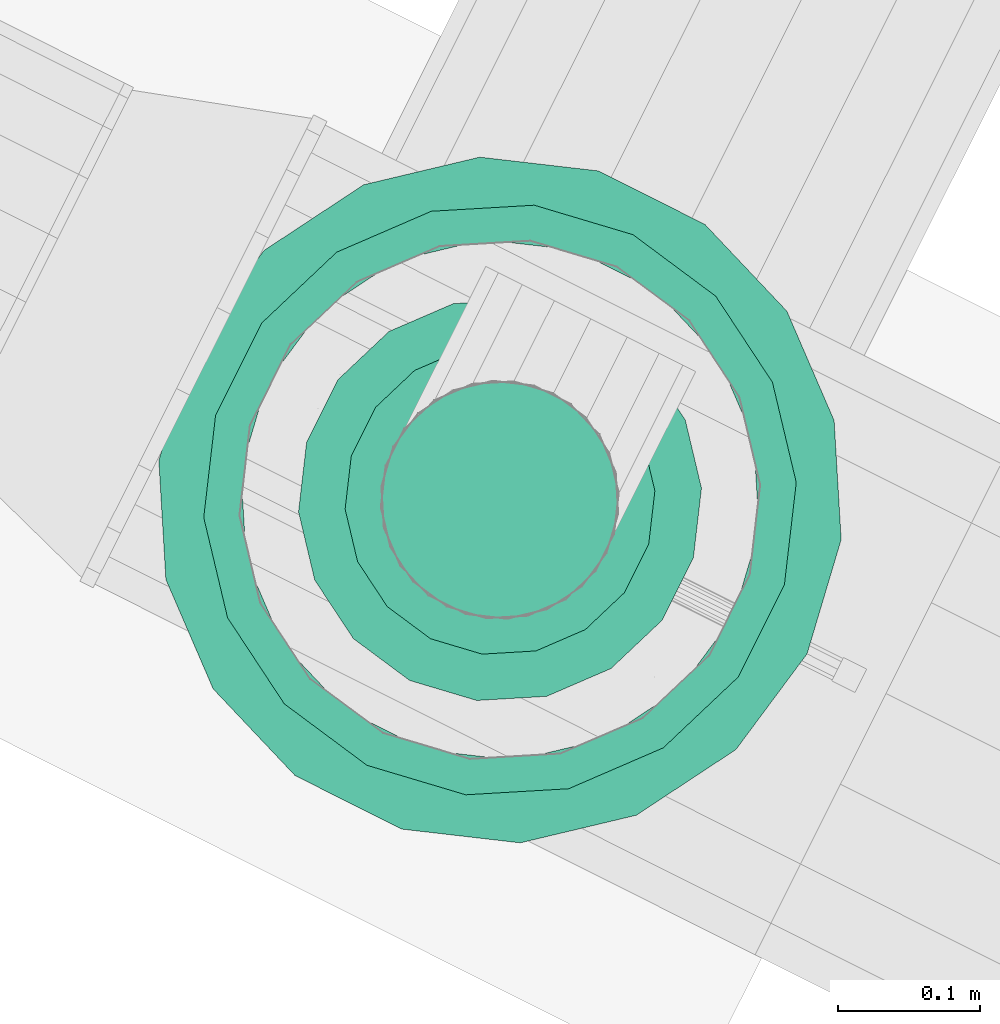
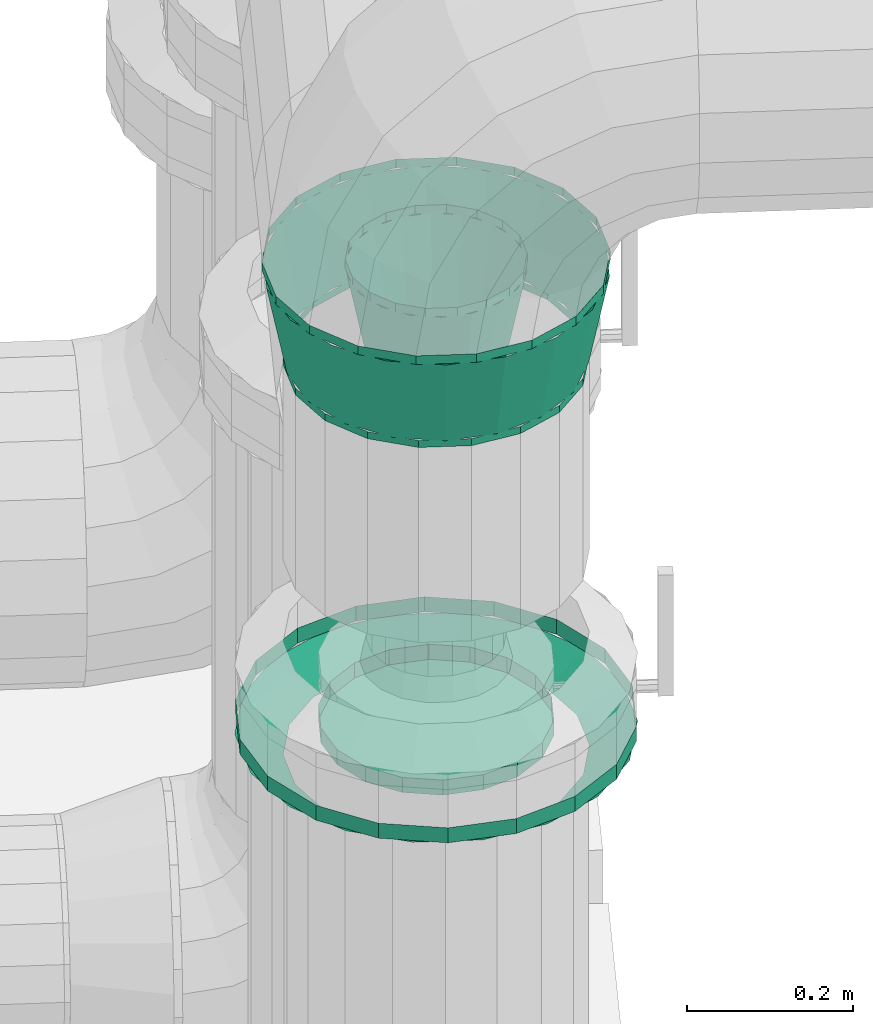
# One storey, part 17 of 152: 2 flow fittings.
"""IFC2X3 building model written with IfcOpenShell, lengths in metres."""

from ifc_helpers import new_model, si_unit, derived_unit, direction, frame, origin, place, context, subcontext, project, spatial, face_set, surface_model, source, transform, mapped, material, type_object, type_shapes, element, save


model = new_model("IFC2X3")

# Units and contexts
model_context = context("Model", 3, precision=5.2338327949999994e-05, world=origin(), true_north=direction((0.0, 1.0)))
body_context = subcontext(model_context, "Body", "Model", "MODEL_VIEW")
ifc_project = project(units=[si_unit("LENGTHUNIT", "METRE"), si_unit("AREAUNIT", "SQUARE_METRE"), si_unit("VOLUMEUNIT", "CUBIC_METRE"), si_unit("MASSUNIT", "GRAM", prefix="KILO"), si_unit("PLANEANGLEUNIT", "RADIAN"), derived_unit("THERMALTRANSMITTANCEUNIT", [(si_unit("MASSUNIT", "GRAM", prefix="KILO"), 1), (si_unit("THERMODYNAMICTEMPERATUREUNIT", "KELVIN"), -1), (si_unit("TIMEUNIT", "SECOND"), -3)])], contexts=[model_context])

# Site, building, storey
site_placement = place(None, frame((0.0, 0.0, 0.0), z_axis=(0.0, 0.0, 1.0), x_axis=(0.8939966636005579, -0.4480736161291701, 0.0)))
site = spatial("IfcSite", under=ifc_project, at=site_placement, Name="Default", CompositionType="ELEMENT")
building_placement = place(site_placement, origin())
building = spatial("IfcBuilding", under=site, at=building_placement, CompositionType="ELEMENT")
storey_placement = place(building_placement, frame((0.0, 0.0, 2.7499999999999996)))
storey = spatial("IfcBuildingStorey", under=building, at=storey_placement, Name="1. Obergeschoss", CompositionType="ELEMENT", Elevation=2.7499999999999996)

# Flow fittings
ifc_material = material(Name="IfcSurfaceStyle #9317")
distribution_element_type_1 = type_object("IfcDistributionElementType", Name="Übergangsstück:Übergangsstück", material=ifc_material)
shared_shape_1 = source(origin(), body_context, "Body", "SurfaceModel", [
    surface_model("IfcFaceBasedSurfaceModel", [(11.809964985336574, 5.856787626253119, 5.178640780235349), (11.804890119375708, 5.885568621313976, 5.178640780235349), (11.804890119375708, 5.885568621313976, 5.189099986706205), (11.809964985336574, 5.856787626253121, 5.189099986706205), (11.790277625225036, 5.910878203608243, 5.178640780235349), (11.790277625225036, 5.910878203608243, 5.189099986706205), (11.767889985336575, 5.929663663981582, 5.178640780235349), (11.767889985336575, 5.929663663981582, 5.189099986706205), (11.740427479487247, 5.939659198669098, 5.178640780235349), (11.740427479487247, 5.939659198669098, 5.189099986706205), (11.711202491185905, 5.939659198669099, 5.178640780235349), (11.711202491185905, 5.939659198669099, 5.189099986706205), (11.683739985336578, 5.929663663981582, 5.178640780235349), (11.683739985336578, 5.929663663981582, 5.189099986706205), (11.661352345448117, 5.9108782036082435, 5.178640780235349), (11.661352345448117, 5.9108782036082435, 5.189099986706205), (11.646739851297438, 5.885568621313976, 5.178640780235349), (11.646739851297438, 5.885568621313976, 5.189099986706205), (11.641664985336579, 5.856787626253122, 5.178640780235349), (11.641664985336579, 5.856787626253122, 5.189099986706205), (11.646739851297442, 5.828006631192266, 5.178640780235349), (11.646739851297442, 5.828006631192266, 5.189099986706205), (11.661352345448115, 5.802697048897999, 5.178640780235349), (11.661352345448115, 5.802697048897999, 5.189099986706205), (11.683739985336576, 5.783911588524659, 5.178640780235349), (11.683739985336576, 5.783911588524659, 5.189099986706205), (11.711202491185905, 5.7739160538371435, 5.178640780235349), (11.711202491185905, 5.7739160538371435, 5.189099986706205), (11.740427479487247, 5.7739160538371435, 5.178640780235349), (11.740427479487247, 5.7739160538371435, 5.189099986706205), (11.767889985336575, 5.783911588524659, 5.178640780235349), (11.767889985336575, 5.783911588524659, 5.189099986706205), (11.790277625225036, 5.802697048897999, 5.178640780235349), (11.790277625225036, 5.802697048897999, 5.189099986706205), (11.804890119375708, 5.828006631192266, 5.178640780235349), (11.804890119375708, 5.828006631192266, 5.189099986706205), (11.725814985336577, 5.940937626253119, 5.189099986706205), (11.697033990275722, 5.935862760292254, 5.189099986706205), (11.68834667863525, 5.959730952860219, 5.318037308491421), (11.725814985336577, 5.966337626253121, 5.318037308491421), (11.671724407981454, 5.921250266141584, 5.189099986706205), (11.655397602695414, 5.940707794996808, 5.318037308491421), (11.652938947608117, 5.898862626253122, 5.189099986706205), (11.630941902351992, 5.911562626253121, 5.318037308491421), (11.642943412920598, 5.871400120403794, 5.189099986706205), (11.617929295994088, 5.875810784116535, 5.318037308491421), (11.642943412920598, 5.842175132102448, 5.189099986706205), (11.617929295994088, 5.837764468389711, 5.318037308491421), (11.652938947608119, 5.8147126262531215, 5.189099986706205), (11.630941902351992, 5.8020126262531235, 5.318037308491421), (11.671724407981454, 5.792324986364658, 5.189099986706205), (11.655397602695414, 5.772867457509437, 5.318037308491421), (11.69703399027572, 5.777712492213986, 5.189099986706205), (11.688346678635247, 5.753844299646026, 5.318037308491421), (11.725814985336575, 5.77263762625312, 5.189099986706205), (11.725814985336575, 5.7472376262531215, 5.318037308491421), (11.754595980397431, 5.777712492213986, 5.189099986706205), (11.7632832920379, 5.753844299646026, 5.318037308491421), (11.779905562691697, 5.792324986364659, 5.189099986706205), (11.796232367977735, 5.772867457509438, 5.318037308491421), (11.798691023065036, 5.814712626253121, 5.189099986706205), (11.820688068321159, 5.802012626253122, 5.318037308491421), (11.80868655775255, 5.842175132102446, 5.189099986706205), (11.833700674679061, 5.83776446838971, 5.318037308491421), (11.808686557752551, 5.871400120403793, 5.189099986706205), (11.833700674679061, 5.875810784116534, 5.318037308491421), (11.798691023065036, 5.89886262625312, 5.189099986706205), (11.820688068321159, 5.9115626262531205, 5.318037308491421), (11.779905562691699, 5.921250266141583, 5.189099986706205), (11.796232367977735, 5.940707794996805, 5.318037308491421), (11.754595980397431, 5.9358627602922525, 5.189099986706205), (11.763283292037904, 5.959730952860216, 5.318037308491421), (11.835364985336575, 5.856787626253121, 5.318037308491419), (11.828758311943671, 5.894255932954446, 5.318037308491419), (11.828758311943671, 5.894255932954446, 5.330640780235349), (11.835364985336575, 5.856787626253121, 5.330640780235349), (11.80973515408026, 5.927205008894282, 5.318037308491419), (11.80973515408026, 5.927205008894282, 5.330640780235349), (11.780589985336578, 5.951660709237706, 5.318037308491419), (11.780589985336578, 5.951660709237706, 5.330640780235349), (11.744838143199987, 5.964673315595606, 5.318037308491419), (11.744838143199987, 5.964673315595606, 5.330640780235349), (11.706791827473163, 5.964673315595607, 5.318037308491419), (11.706791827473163, 5.964673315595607, 5.330640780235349), (11.671039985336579, 5.951660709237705, 5.318037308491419), (11.671039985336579, 5.951660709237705, 5.330640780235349), (11.641894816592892, 5.9272050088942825, 5.318037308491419), (11.641894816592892, 5.9272050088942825, 5.330640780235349), (11.62287165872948, 5.894255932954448, 5.318037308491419), (11.62287165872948, 5.894255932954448, 5.330640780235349), (11.616264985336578, 5.856787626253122, 5.318037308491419), (11.616264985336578, 5.856787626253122, 5.330640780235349), (11.62287165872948, 5.819319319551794, 5.318037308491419), (11.62287165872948, 5.819319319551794, 5.330640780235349), (11.641894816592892, 5.786370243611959, 5.318037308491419), (11.641894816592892, 5.786370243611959, 5.330640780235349), (11.671039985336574, 5.761914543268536, 5.318037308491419), (11.671039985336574, 5.761914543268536, 5.330640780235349), (11.706791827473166, 5.748901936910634, 5.318037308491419), (11.706791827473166, 5.748901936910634, 5.330640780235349), (11.744838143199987, 5.748901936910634, 5.318037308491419), (11.744838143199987, 5.748901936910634, 5.330640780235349), (11.780589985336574, 5.761914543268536, 5.318037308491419), (11.780589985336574, 5.761914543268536, 5.330640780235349), (11.809735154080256, 5.786370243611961, 5.318037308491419), (11.809735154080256, 5.786370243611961, 5.330640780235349), (11.82875831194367, 5.819319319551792, 5.318037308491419), (11.82875831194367, 5.819319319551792, 5.330640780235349), (11.909964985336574, 5.856787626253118, 5.178640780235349), (11.898859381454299, 5.919770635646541, 5.178640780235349), (11.898859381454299, 5.919770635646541, 5.189099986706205), (11.909964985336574, 5.856787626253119, 5.189099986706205), (11.866882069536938, 5.975156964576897, 5.178640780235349), (11.866882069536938, 5.975156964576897, 5.189099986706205), (11.817889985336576, 6.016266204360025, 5.178640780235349), (11.817889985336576, 6.016266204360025, 5.189099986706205), (11.757792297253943, 6.038139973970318, 5.178640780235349), (11.757792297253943, 6.038139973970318, 5.189099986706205), (11.693837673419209, 6.0381399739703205, 5.178640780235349), (11.693837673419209, 6.0381399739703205, 5.189099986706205), (11.633739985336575, 6.016266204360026, 5.178640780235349), (11.633739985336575, 6.016266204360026, 5.189099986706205), (11.584747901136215, 5.975156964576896, 5.178640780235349), (11.584747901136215, 5.975156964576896, 5.189099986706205), (11.552770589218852, 5.919770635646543, 5.178640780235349), (11.552770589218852, 5.919770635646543, 5.189099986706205), (11.541664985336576, 5.856787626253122, 5.178640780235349), (11.541664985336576, 5.856787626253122, 5.189099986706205), (11.552770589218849, 5.793804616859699, 5.178640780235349), (11.552770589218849, 5.793804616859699, 5.189099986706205), (11.584747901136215, 5.738418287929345, 5.178640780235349), (11.584747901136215, 5.738418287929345, 5.189099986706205), (11.633739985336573, 5.697309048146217, 5.178640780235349), (11.633739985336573, 5.697309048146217, 5.189099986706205), (11.693837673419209, 5.675435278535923, 5.178640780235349), (11.693837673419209, 5.675435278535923, 5.189099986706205), (11.75779229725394, 5.675435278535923, 5.178640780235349), (11.75779229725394, 5.675435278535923, 5.189099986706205), (11.817889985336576, 5.697309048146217, 5.178640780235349), (11.817889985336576, 5.697309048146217, 5.189099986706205), (11.866882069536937, 5.738418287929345, 5.178640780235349), (11.866882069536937, 5.738418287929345, 5.189099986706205), (11.898859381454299, 5.793804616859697, 5.178640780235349), (11.898859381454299, 5.793804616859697, 5.189099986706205), (11.725814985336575, 6.04093762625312, 5.189099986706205), (11.662831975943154, 6.0298320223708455, 5.189099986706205), (11.654144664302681, 6.05370021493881, 5.318037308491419), (11.725814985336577, 6.066337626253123, 5.318037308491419), (11.607445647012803, 5.99785471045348, 5.189099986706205), (11.59111884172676, 6.017312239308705, 5.318037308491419), (11.566336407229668, 5.948862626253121, 5.189099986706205), (11.544339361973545, 5.961562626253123, 5.318037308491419), (11.544462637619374, 5.888764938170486, 5.189099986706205), (11.519448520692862, 5.893175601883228, 5.318037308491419), (11.54446263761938, 5.824810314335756, 5.189099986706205), (11.519448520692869, 5.820399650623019, 5.318037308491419), (11.56633640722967, 5.764712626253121, 5.189099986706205), (11.544339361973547, 5.752012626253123, 5.318037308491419), (11.6074456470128, 5.715720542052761, 5.189099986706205), (11.59111884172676, 5.69626301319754, 5.318037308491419), (11.662831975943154, 5.683743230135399, 5.189099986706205), (11.654144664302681, 5.659875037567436, 5.318037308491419), (11.725814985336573, 5.672637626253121, 5.189099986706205), (11.725814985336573, 5.647237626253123, 5.318037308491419), (11.788797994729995, 5.683743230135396, 5.189099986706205), (11.797485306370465, 5.659875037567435, 5.318037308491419), (11.84418432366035, 5.71572054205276, 5.189099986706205), (11.860511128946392, 5.696263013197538, 5.318037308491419), (11.885293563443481, 5.76471262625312, 5.189099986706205), (11.907290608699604, 5.752012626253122, 5.318037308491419), (11.907167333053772, 5.824810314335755, 5.189099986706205), (11.932181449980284, 5.820399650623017, 5.318037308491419), (11.907167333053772, 5.888764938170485, 5.189099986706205), (11.932181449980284, 5.893175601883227, 5.318037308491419), (11.885293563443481, 5.94886262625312, 5.189099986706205), (11.907290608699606, 5.961562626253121, 5.318037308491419), (11.844184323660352, 5.997854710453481, 5.189099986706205), (11.860511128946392, 6.017312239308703, 5.318037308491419), (11.78879799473, 6.029832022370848, 5.189099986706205), (11.79748530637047, 6.05370021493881, 5.318037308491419), (11.935364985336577, 5.856787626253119, 5.318037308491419), (11.922727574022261, 5.928457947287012, 5.318037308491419), (11.922727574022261, 5.928457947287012, 5.330640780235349), (11.935364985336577, 5.856787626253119, 5.330640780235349), (11.886339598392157, 5.991483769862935, 5.318037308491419), (11.886339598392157, 5.991483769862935, 5.330640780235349), (11.830589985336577, 6.038263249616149, 5.318037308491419), (11.830589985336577, 6.038263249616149, 5.330640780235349), (11.76220296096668, 6.06315409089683, 5.318037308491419), (11.76220296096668, 6.06315409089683, 5.330640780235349), (11.689427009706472, 6.06315409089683, 5.318037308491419), (11.689427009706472, 6.06315409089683, 5.330640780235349), (11.621039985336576, 6.038263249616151, 5.318037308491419), (11.621039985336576, 6.038263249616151, 5.330640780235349), (11.565290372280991, 5.991483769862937, 5.318037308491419), (11.565290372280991, 5.991483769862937, 5.330640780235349), (11.528902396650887, 5.928457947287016, 5.318037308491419), (11.528902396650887, 5.928457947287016, 5.330640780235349), (11.516264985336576, 5.856787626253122, 5.318037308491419), (11.516264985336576, 5.856787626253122, 5.330640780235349), (11.52890239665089, 5.785117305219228, 5.318037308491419), (11.52890239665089, 5.785117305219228, 5.330640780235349), (11.56529037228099, 5.722091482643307, 5.318037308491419), (11.56529037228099, 5.722091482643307, 5.330640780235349), (11.621039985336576, 5.675312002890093, 5.318037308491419), (11.621039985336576, 5.675312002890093, 5.330640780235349), (11.68942700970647, 5.650421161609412, 5.318037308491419), (11.68942700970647, 5.650421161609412, 5.330640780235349), (11.762202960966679, 5.650421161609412, 5.318037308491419), (11.762202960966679, 5.650421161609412, 5.330640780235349), (11.830589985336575, 5.6753120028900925, 5.318037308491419), (11.830589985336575, 5.6753120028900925, 5.330640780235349), (11.886339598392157, 5.722091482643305, 5.318037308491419), (11.886339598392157, 5.722091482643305, 5.330640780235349), (11.922727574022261, 5.7851173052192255, 5.318037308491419), (11.922727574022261, 5.7851173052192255, 5.330640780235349)], [face_set([[[0, 1, 2, 3]], [[1, 4, 5, 2]], [[4, 6, 7, 5]], [[6, 8, 9, 7]], [[8, 10, 11, 9]], [[10, 12, 13, 11]], [[12, 14, 15, 13]], [[14, 16, 17, 15]], [[16, 18, 19, 17]], [[18, 20, 21, 19]], [[20, 22, 23, 21]], [[22, 24, 25, 23]], [[24, 26, 27, 25]], [[26, 28, 29, 27]], [[28, 30, 31, 29]], [[30, 32, 33, 31]], [[32, 34, 35, 33]], [[34, 0, 3, 35]], [[36, 37, 38, 39]], [[37, 40, 41, 38]], [[40, 42, 43, 41]], [[42, 44, 45, 43]], [[44, 46, 47, 45]], [[46, 48, 49, 47]], [[48, 50, 51, 49]], [[50, 52, 53, 51]], [[52, 54, 55, 53]], [[54, 56, 57, 55]], [[56, 58, 59, 57]], [[58, 60, 61, 59]], [[60, 62, 63, 61]], [[62, 64, 65, 63]], [[64, 66, 67, 65]], [[66, 68, 69, 67]], [[68, 70, 71, 69]], [[70, 36, 39, 71]], [[72, 73, 74, 75]], [[73, 76, 77, 74]], [[76, 78, 79, 77]], [[78, 80, 81, 79]], [[80, 82, 83, 81]], [[82, 84, 85, 83]], [[84, 86, 87, 85]], [[86, 88, 89, 87]], [[88, 90, 91, 89]], [[90, 92, 93, 91]], [[92, 94, 95, 93]], [[94, 96, 97, 95]], [[96, 98, 99, 97]], [[98, 100, 101, 99]], [[100, 102, 103, 101]], [[102, 104, 105, 103]], [[104, 106, 107, 105]], [[106, 72, 75, 107]], [[108, 109, 110, 111]], [[109, 112, 113, 110]], [[112, 114, 115, 113]], [[114, 116, 117, 115]], [[116, 118, 119, 117]], [[118, 120, 121, 119]], [[120, 122, 123, 121]], [[122, 124, 125, 123]], [[124, 126, 127, 125]], [[126, 128, 129, 127]], [[128, 130, 131, 129]], [[130, 132, 133, 131]], [[132, 134, 135, 133]], [[134, 136, 137, 135]], [[136, 138, 139, 137]], [[138, 140, 141, 139]], [[140, 142, 143, 141]], [[142, 108, 111, 143]], [[144, 145, 146, 147]], [[145, 148, 149, 146]], [[148, 150, 151, 149]], [[150, 152, 153, 151]], [[152, 154, 155, 153]], [[154, 156, 157, 155]], [[156, 158, 159, 157]], [[158, 160, 161, 159]], [[160, 162, 163, 161]], [[162, 164, 165, 163]], [[164, 166, 167, 165]], [[166, 168, 169, 167]], [[168, 170, 171, 169]], [[170, 172, 173, 171]], [[172, 174, 175, 173]], [[174, 176, 177, 175]], [[176, 178, 179, 177]], [[178, 144, 147, 179]], [[180, 181, 182, 183]], [[181, 184, 185, 182]], [[184, 186, 187, 185]], [[186, 188, 189, 187]], [[188, 190, 191, 189]], [[190, 192, 193, 191]], [[192, 194, 195, 193]], [[194, 196, 197, 195]], [[196, 198, 199, 197]], [[198, 200, 201, 199]], [[200, 202, 203, 201]], [[202, 204, 205, 203]], [[204, 206, 207, 205]], [[206, 208, 209, 207]], [[208, 210, 211, 209]], [[210, 212, 213, 211]], [[212, 214, 215, 213]], [[214, 180, 183, 215]]])]),
])
type_shapes(distribution_element_type_1, [shared_shape_1])
flow_fitting_1_placement = place(storey_placement, frame((0.0, 0.0, -2.7499999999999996)))
element("IfcFlowFitting", 1, at=flow_fitting_1_placement, inside=storey, type_object=distribution_element_type_1, material=ifc_material, Name="Übergangsstück", ObjectType="Übergangsstück", context=body_context, shape_type="MappedRepresentation", body=[
    mapped(shared_shape_1, transform((0.0, 0.0, 0.0), scale=1.0)),
])
distribution_element_type_2 = type_object("IfcDistributionElementType", Name="Flansch 11443:Flansch 11443", material=ifc_material)
shared_shape_2 = source(origin(), body_context, "Body", "SurfaceModel", [
    surface_model("IfcFaceBasedSurfaceModel", [(11.725814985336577, 5.999287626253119, 4.662303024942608), (11.774552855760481, 5.990693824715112, 4.662303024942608), (11.774552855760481, 5.990693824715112, 4.6403030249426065), (11.725814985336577, 5.999287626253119, 4.6403030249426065), (11.817412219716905, 5.965948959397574, 4.662303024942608), (11.817412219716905, 5.965948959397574, 4.6403030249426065), (11.84922360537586, 5.9280376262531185, 4.662303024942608), (11.84922360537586, 5.9280376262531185, 4.6403030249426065), (11.866150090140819, 5.881532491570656, 4.662303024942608), (11.866150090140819, 5.881532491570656, 4.6403030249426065), (11.866150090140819, 5.832042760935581, 4.662303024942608), (11.866150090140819, 5.832042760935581, 4.6403030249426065), (11.849223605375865, 5.7855376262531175, 4.662303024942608), (11.849223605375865, 5.7855376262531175, 4.6403030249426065), (11.817412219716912, 5.747626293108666, 4.662303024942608), (11.817412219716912, 5.747626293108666, 4.6403030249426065), (11.774552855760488, 5.722881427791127, 4.662303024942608), (11.774552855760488, 5.722881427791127, 4.6403030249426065), (11.72581498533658, 5.714287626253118, 4.662303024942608), (11.72581498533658, 5.714287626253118, 4.6403030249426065), (11.677077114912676, 5.722881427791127, 4.662303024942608), (11.677077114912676, 5.722881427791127, 4.6403030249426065), (11.63421775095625, 5.747626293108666, 4.662303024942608), (11.63421775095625, 5.747626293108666, 4.6403030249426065), (11.602406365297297, 5.785537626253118, 4.662303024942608), (11.602406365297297, 5.785537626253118, 4.6403030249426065), (11.585479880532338, 5.832042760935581, 4.662303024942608), (11.585479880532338, 5.832042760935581, 4.6403030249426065), (11.585479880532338, 5.881532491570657, 4.662303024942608), (11.585479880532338, 5.881532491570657, 4.6403030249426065), (11.602406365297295, 5.928037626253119, 4.662303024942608), (11.602406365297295, 5.928037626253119, 4.6403030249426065), (11.634217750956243, 5.965948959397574, 4.662303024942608), (11.634217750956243, 5.965948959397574, 4.6403030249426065), (11.677077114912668, 5.990693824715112, 4.662303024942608), (11.677077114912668, 5.990693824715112, 4.6403030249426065), (11.725814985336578, 5.856787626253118, 4.6403030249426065), (11.817814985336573, 5.856787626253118, 4.640303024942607), (11.812266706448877, 5.825321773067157, 4.640303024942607), (11.804890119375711, 5.828006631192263, 4.607303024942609), (11.80996498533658, 5.856787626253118, 4.607303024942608), (11.796291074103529, 5.797651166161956, 4.6403030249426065), (11.790277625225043, 5.802697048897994, 4.607303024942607), (11.77181498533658, 5.777113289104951, 4.6403030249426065), (11.76788998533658, 5.783911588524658, 4.607303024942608), (11.741790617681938, 5.766185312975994, 4.6403030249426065), (11.740427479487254, 5.77391605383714, 4.607303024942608), (11.709839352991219, 5.766185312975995, 4.6403030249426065), (11.711202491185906, 5.773916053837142, 4.607303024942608), (11.679814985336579, 5.777113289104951, 4.6403030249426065), (11.68373998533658, 5.783911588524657, 4.607303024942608), (11.655338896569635, 5.797651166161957, 4.6403030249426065), (11.661352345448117, 5.802697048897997, 4.607303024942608), (11.639363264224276, 5.825321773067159, 4.640303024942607), (11.646739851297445, 5.828006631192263, 4.607303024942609), (11.633814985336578, 5.856787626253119, 4.6403030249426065), (11.641664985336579, 5.856787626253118, 4.607303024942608), (11.639363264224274, 5.888253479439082, 4.6403030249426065), (11.646739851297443, 5.885568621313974, 4.607303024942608), (11.655338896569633, 5.915924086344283, 4.6403030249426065), (11.661352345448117, 5.910878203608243, 4.607303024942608), (11.679814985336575, 5.936461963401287, 4.6403030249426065), (11.683739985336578, 5.929663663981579, 4.607303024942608), (11.709839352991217, 5.947389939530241, 4.6403030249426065), (11.711202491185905, 5.939659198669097, 4.607303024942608), (11.741790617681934, 5.947389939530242, 4.6403030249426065), (11.740427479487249, 5.939659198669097, 4.607303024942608), (11.77181498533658, 5.936461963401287, 4.6403030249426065), (11.767889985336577, 5.92966366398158, 4.607303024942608), (11.796291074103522, 5.91592408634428, 4.6403030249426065), (11.790277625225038, 5.910878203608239, 4.607303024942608), (11.812266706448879, 5.88825347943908, 4.6403030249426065), (11.80489011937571, 5.885568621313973, 4.607303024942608), (11.725814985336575, 6.099287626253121, 4.662303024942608), (11.808754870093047, 6.084663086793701, 4.662303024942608), (11.808754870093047, 6.084663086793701, 4.6403030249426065), (11.725814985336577, 6.099287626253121, 4.6403030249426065), (11.88169098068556, 6.042553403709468, 4.662303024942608), (11.88169098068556, 6.042553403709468, 4.6403030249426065), (11.9358261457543, 5.978037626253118, 4.662303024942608), (11.9358261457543, 5.978037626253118, 4.6403030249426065), (11.964630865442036, 5.898897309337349, 4.662303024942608), (11.964630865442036, 5.898897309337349, 4.6403030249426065), (11.964630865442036, 5.8146779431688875, 4.662303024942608), (11.964630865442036, 5.8146779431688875, 4.6403030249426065), (11.935826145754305, 5.735537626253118, 4.662303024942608), (11.935826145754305, 5.735537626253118, 4.6403030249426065), (11.881690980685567, 5.671021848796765, 4.662303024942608), (11.881690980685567, 5.671021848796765, 4.6403030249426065), (11.808754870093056, 5.628912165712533, 4.662303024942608), (11.808754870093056, 5.628912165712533, 4.6403030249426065), (11.72581498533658, 5.614287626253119, 4.662303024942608), (11.72581498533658, 5.614287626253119, 4.6403030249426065), (11.64287510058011, 5.628912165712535, 4.662303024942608), (11.64287510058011, 5.628912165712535, 4.6403030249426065), (11.569938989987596, 5.671021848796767, 4.662303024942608), (11.569938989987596, 5.671021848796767, 4.6403030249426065), (11.515803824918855, 5.7355376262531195, 4.662303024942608), (11.515803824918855, 5.7355376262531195, 4.6403030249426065), (11.48699910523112, 5.814677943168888, 4.662303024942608), (11.48699910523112, 5.814677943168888, 4.6403030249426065), (11.486999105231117, 5.898897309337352, 4.662303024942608), (11.486999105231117, 5.898897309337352, 4.6403030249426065), (11.515803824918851, 5.978037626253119, 4.662303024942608), (11.515803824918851, 5.978037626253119, 4.6403030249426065), (11.569938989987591, 6.042553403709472, 4.662303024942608), (11.569938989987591, 6.042553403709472, 4.6403030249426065), (11.6428751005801, 6.084663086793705, 4.662303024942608), (11.6428751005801, 6.084663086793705, 4.6403030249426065), (11.968314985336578, 5.8567876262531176, 4.6403030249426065), (11.953690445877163, 5.773847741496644, 4.6403030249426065), (11.8988593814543, 5.793804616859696, 4.607303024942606), (11.909964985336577, 5.856787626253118, 4.607303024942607), (11.911580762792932, 5.700911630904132, 4.640303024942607), (11.86688206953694, 5.738418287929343, 4.607303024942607), (11.847064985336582, 5.6467764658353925, 4.6403030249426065), (11.817889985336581, 5.697309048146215, 4.607303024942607), (11.767924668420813, 5.617971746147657, 4.6403030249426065), (11.757792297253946, 5.67543527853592, 4.607303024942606), (11.683705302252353, 5.617971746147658, 4.6403030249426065), (11.693837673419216, 5.675435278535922, 4.607303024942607), (11.604564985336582, 5.6467764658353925, 4.6403030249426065), (11.63373998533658, 5.697309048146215, 4.607303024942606), (11.54004920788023, 5.700911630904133, 4.640303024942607), (11.58474790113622, 5.738418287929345, 4.607303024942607), (11.497939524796, 5.773847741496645, 4.6403030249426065), (11.552770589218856, 5.793804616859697, 4.607303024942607), (11.483314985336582, 5.856787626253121, 4.640303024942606), (11.54166498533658, 5.856787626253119, 4.607303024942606), (11.497939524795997, 5.939727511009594, 4.6403030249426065), (11.552770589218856, 5.919770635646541, 4.607303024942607), (11.540049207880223, 6.012663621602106, 4.640303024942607), (11.584747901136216, 5.975156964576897, 4.607303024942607), (11.604564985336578, 6.066798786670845, 4.640303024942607), (11.633739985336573, 6.016266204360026, 4.607303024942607), (11.683705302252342, 6.0956035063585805, 4.6403030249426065), (11.693837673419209, 6.038139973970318, 4.607303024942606), (11.767924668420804, 6.09560350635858, 4.6403030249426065), (11.757792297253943, 6.038139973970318, 4.607303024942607), (11.847064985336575, 6.066798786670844, 4.6403030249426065), (11.817889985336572, 6.016266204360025, 4.607303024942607), (11.911580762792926, 6.012663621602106, 4.6403030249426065), (11.866882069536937, 5.975156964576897, 4.607303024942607), (11.953690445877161, 5.9397275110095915, 4.6403030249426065), (11.8988593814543, 5.91977063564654, 4.607303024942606)], [face_set([[[0, 1, 2, 3]], [[1, 4, 5, 2]], [[4, 6, 7, 5]], [[6, 8, 9, 7]], [[8, 10, 11, 9]], [[10, 12, 13, 11]], [[12, 14, 15, 13]], [[14, 16, 17, 15]], [[16, 18, 19, 17]], [[18, 20, 21, 19]], [[20, 22, 23, 21]], [[22, 24, 25, 23]], [[24, 26, 27, 25]], [[26, 28, 29, 27]], [[28, 30, 31, 29]], [[30, 32, 33, 31]], [[32, 34, 35, 33]], [[34, 0, 3, 35]], [[36, 35, 3]], [[36, 33, 35]], [[36, 31, 33]], [[36, 29, 31]], [[36, 27, 29]], [[36, 25, 27]], [[36, 23, 25]], [[36, 21, 23]], [[36, 19, 21]], [[36, 17, 19]], [[36, 15, 17]], [[36, 13, 15]], [[36, 11, 13]], [[36, 9, 11]], [[36, 7, 9]], [[36, 5, 7]], [[36, 2, 5]], [[36, 3, 2]], [[37, 38, 39, 40]], [[38, 41, 42, 39]], [[41, 43, 44, 42]], [[43, 45, 46, 44]], [[45, 47, 48, 46]], [[47, 49, 50, 48]], [[49, 51, 52, 50]], [[51, 53, 54, 52]], [[53, 55, 56, 54]], [[55, 57, 58, 56]], [[57, 59, 60, 58]], [[59, 61, 62, 60]], [[61, 63, 64, 62]], [[63, 65, 66, 64]], [[65, 67, 68, 66]], [[67, 69, 70, 68]], [[69, 71, 72, 70]], [[71, 37, 40, 72]], [[73, 74, 75, 76]], [[74, 77, 78, 75]], [[77, 79, 80, 78]], [[79, 81, 82, 80]], [[81, 83, 84, 82]], [[83, 85, 86, 84]], [[85, 87, 88, 86]], [[87, 89, 90, 88]], [[89, 91, 92, 90]], [[91, 93, 94, 92]], [[93, 95, 96, 94]], [[95, 97, 98, 96]], [[97, 99, 100, 98]], [[99, 101, 102, 100]], [[101, 103, 104, 102]], [[103, 105, 106, 104]], [[105, 107, 108, 106]], [[107, 73, 76, 108]], [[109, 110, 111, 112]], [[110, 113, 114, 111]], [[113, 115, 116, 114]], [[115, 117, 118, 116]], [[117, 119, 120, 118]], [[119, 121, 122, 120]], [[121, 123, 124, 122]], [[123, 125, 126, 124]], [[125, 127, 128, 126]], [[127, 129, 130, 128]], [[129, 131, 132, 130]], [[131, 133, 134, 132]], [[133, 135, 136, 134]], [[135, 137, 138, 136]], [[137, 139, 140, 138]], [[139, 141, 142, 140]], [[141, 143, 144, 142]], [[143, 109, 112, 144]]])]),
])
type_shapes(distribution_element_type_2, [shared_shape_2])
flow_fitting_2_placement = place(storey_placement, frame((0.0, 0.0, -2.7499999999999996)))
element("IfcFlowFitting", 2, at=flow_fitting_2_placement, inside=storey, type_object=distribution_element_type_2, material=ifc_material, Name="Flansch", ObjectType="Flansch", context=body_context, shape_type="MappedRepresentation", body=[
    mapped(shared_shape_2, transform((0.0, 0.0, 0.0), scale=1.0)),
])

save(model, "model.ifc")
